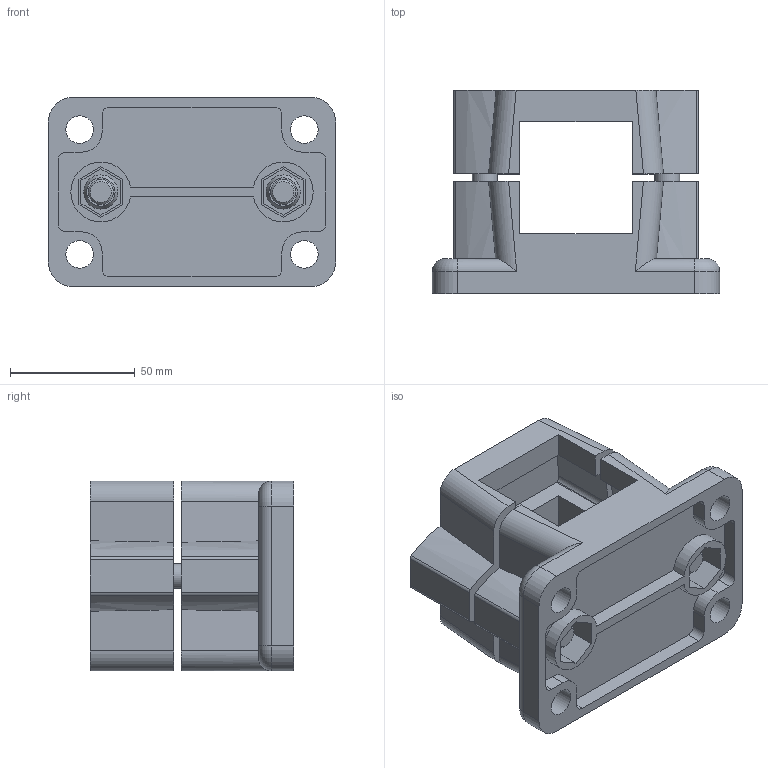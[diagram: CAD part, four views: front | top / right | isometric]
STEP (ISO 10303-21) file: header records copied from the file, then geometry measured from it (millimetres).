
FILE_DESCRIPTION( ( 'STEP AP203' ), '1' );
FILE_NAME( 'C:/Temp/Ganter_Step_05_03_2020/data/3_7/147/Flanged connector clamp GN 147-V45-2-SW.stp', '2020-03-12T14:20:36', ( 'License CC BY-ND 4.0' ), ( 'CADENAS' ), ' ', 'PARTsolutions', ' ' );
FILE_SCHEMA( ( 'CONFIG_CONTROL_DESIGN' ) );
Length unit declared in the file: millimetre
Products named in the file (1): _Flanged connector clamp GN 147-V45-2-SW
Bounding box: 115 x 81.5 x 76 mm (x, y, z)
Volume: 221926.3 mm3; surface area: 79641.1 mm2
Topology: 1 solids, 1 shells, 234 faces, 628 edges, 418 vertices
Faces by surface type: plane 140, cylinder 84, torus 6, cone 4
Full cylindrical faces by diameter (mm): 10 x4, 10.5 x4, 11 x4, 16 x2
Entity records: 7290 total; most frequent: CARTESIAN_POINT 1325, DIRECTION 1248, ORIENTED_EDGE 1196, EDGE_CURVE 598, AXIS2_PLACEMENT_3D 419, LINE 410, VECTOR 410, VERTEX_POINT 408
